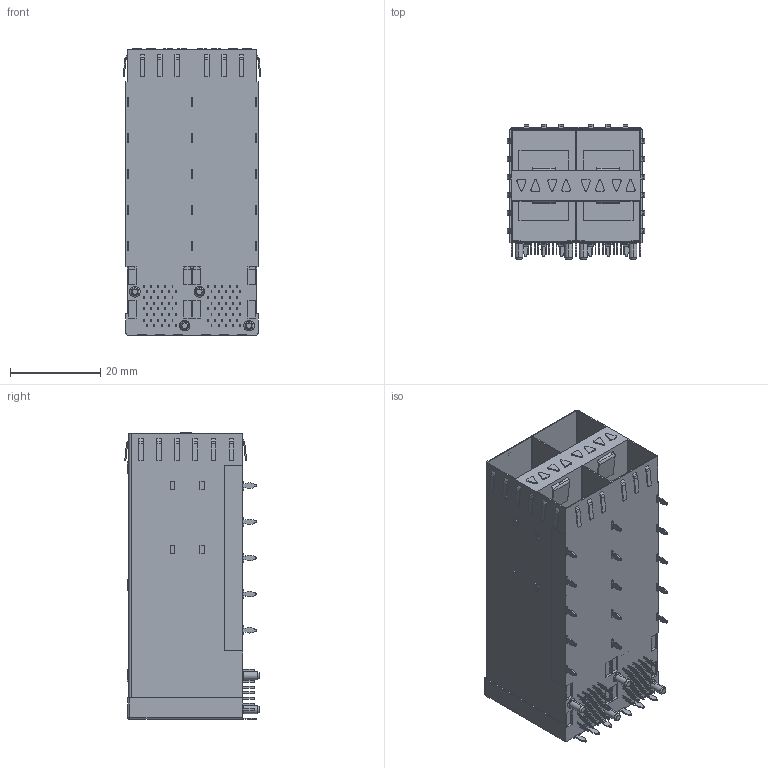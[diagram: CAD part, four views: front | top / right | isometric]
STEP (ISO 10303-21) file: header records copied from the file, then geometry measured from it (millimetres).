
FILE_DESCRIPTION (( 'STEP AP203' ), '1' );
FILE_NAME ('SFP 2X2无月牙 内外导光柱.STEP', '2024-05-31T03:01:23', ( '' ), ( '' ), 'SwSTEP 2.0', 'SolidWorks 2018', '' );
FILE_SCHEMA (( 'CONFIG_CONTROL_DESIGN' ));
Length unit declared in the file: millimetre
Products named in the file (1): SFP 2X2无月牙 内外导光柱
Bounding box: 30.55 x 29.8 x 63.5 mm (x, y, z)
Volume: 23646.2 mm3; surface area: 18578.4 mm2
Topology: 1 solids, 1 shells, 1366 faces, 3634 edges, 2414 vertices
Faces by surface type: plane 998, cylinder 350, cone 16, sphere 2
Entity records: 42305 total; most frequent: CARTESIAN_POINT 7413, ORIENTED_EDGE 7264, DIRECTION 7082, EDGE_CURVE 3632, LINE 2916, VECTOR 2916, VERTEX_POINT 2414, AXIS2_PLACEMENT_3D 2083
